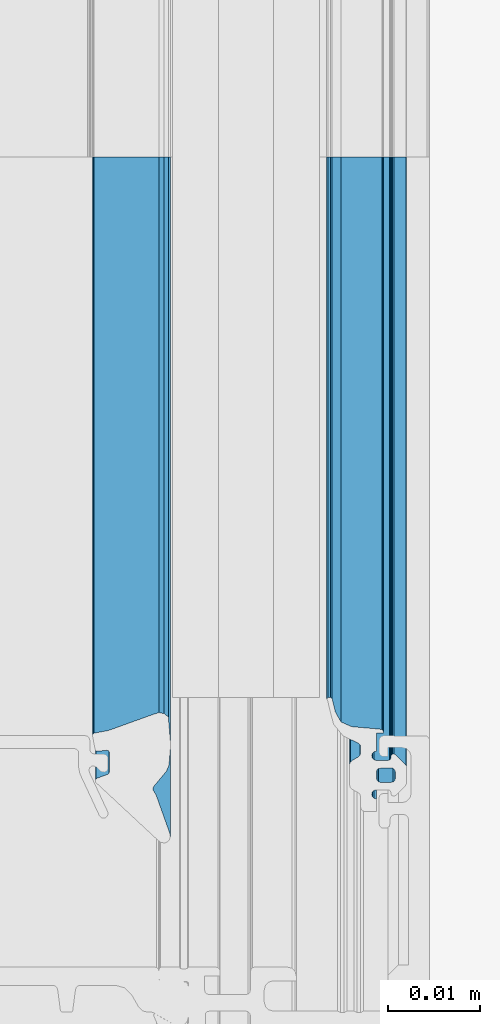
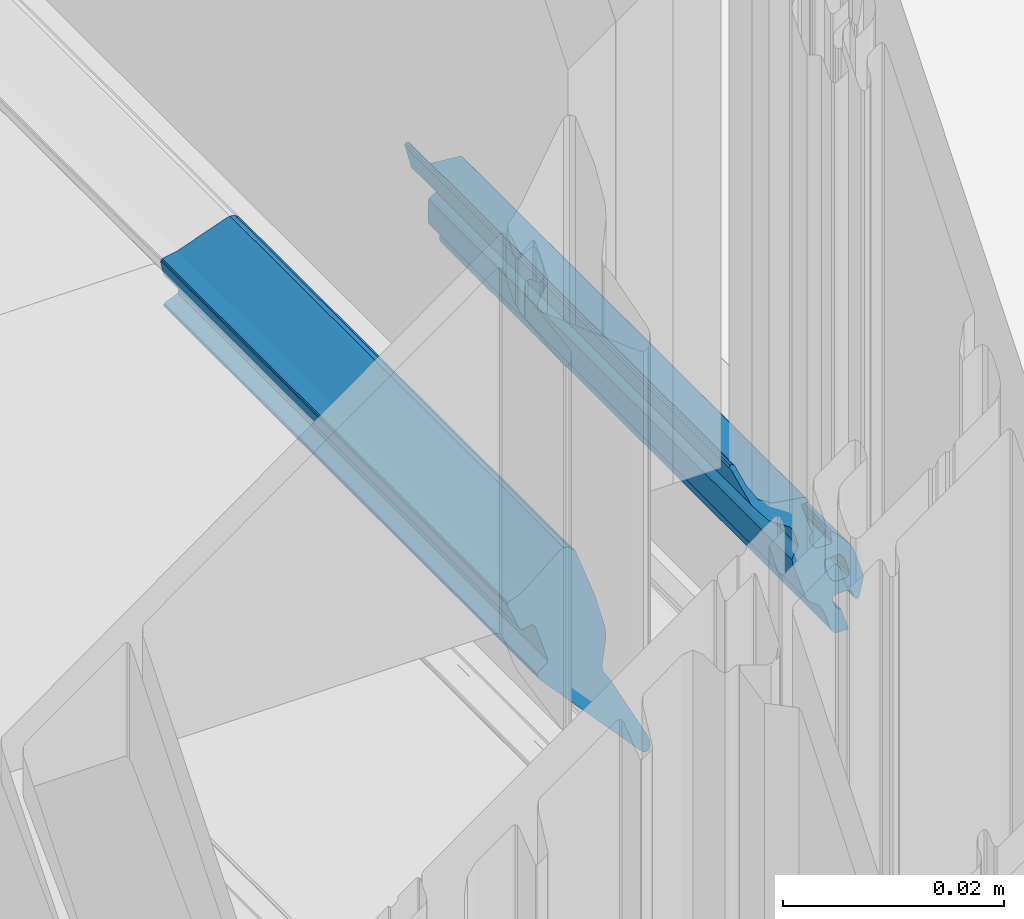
# One storey, part 53 of 65: 1 building element part, 2 elements without a shape of their own.
"""IFC2X3 building model written with IfcOpenShell, lengths in millimetres."""

from ifc_helpers import new_model, entity, si_unit, converted_unit, derived_unit, money_unit, direction, frame, origin_with_axes, place, context, subcontext, project, spatial, faceted_brep, material, type_object, element, aggregate, save


model = new_model("IFC2X3")

# Units and contexts
model_context = context("Model", 3, precision=0.01, world=origin_with_axes(), true_north=direction((0.0, 1.0)))
body_context = subcontext(model_context, "Body", "Model", "MODEL_VIEW")
ifc_project = project(units=[si_unit("LENGTHUNIT", "METRE", prefix="MILLI"), si_unit("AREAUNIT", "SQUARE_METRE"), si_unit("VOLUMEUNIT", "CUBIC_METRE"), converted_unit("PLANEANGLEUNIT", "DEGREE", entity("IfcPlaneAngleMeasure", 0.0174532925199), si_unit("PLANEANGLEUNIT", "RADIAN"), dimensions=[0, 0, 0, 0, 0, 0, 0]), si_unit("SOLIDANGLEUNIT", "STERADIAN"), money_unit("EUR"), converted_unit("TIMEUNIT", "Year", entity("IfcTimeMeasure", 31556926.0), si_unit("TIMEUNIT", "SECOND"), dimensions=[0, 0, 1, 0, 0, 0, 0]), si_unit("MASSUNIT", "GRAM", prefix="KILO"), si_unit("THERMODYNAMICTEMPERATUREUNIT", "DEGREE_CELSIUS"), si_unit("LUMINOUSINTENSITYUNIT", "LUMEN"), si_unit("ENERGYUNIT", "JOULE", prefix="MEGA"), derived_unit("THERMALCONDUCTANCEUNIT", [(si_unit("POWERUNIT", "WATT"), 1), (si_unit("LENGTHUNIT", "METRE"), -1), (si_unit("THERMODYNAMICTEMPERATUREUNIT", "KELVIN"), -1)]), derived_unit("SPECIFICHEATCAPACITYUNIT", [(si_unit("ENERGYUNIT", "JOULE"), 1), (si_unit("MASSUNIT", "GRAM", prefix="KILO"), -1), (si_unit("THERMODYNAMICTEMPERATUREUNIT", "KELVIN"), -1)]), derived_unit("MASSDENSITYUNIT", [(si_unit("MASSUNIT", "GRAM", prefix="KILO"), 1), (si_unit("VOLUMEUNIT", "CUBIC_METRE"), -1)])], contexts=[model_context])

# Site, building, storey
site_placement = place(None, origin_with_axes())
site = spatial("IfcSite", under=ifc_project, at=site_placement, Name="Puškini 31, Narva", CompositionType="ELEMENT")
building_placement = place(site_placement, origin_with_axes())
building = spatial("IfcBuilding", under=site, at=building_placement, Name="Narva Riigigümnaasium", CompositionType="ELEMENT")
storey_placement = place(building_placement, frame((0.0, 0.0, -1320.0), z_axis=(0.0, 0.0, 1.0), x_axis=(1.0, 0.0, 0.0)))
storey = spatial("IfcBuildingStorey", under=building, at=storey_placement, Name="1.korrus -1.32", CompositionType="ELEMENT", Elevation=-1320.0)

# Curtain wall, member, building element part
curtain_wall_type = type_object("IfcCurtainWallType", Name="Curtain Wall Type", PredefinedType="NOTDEFINED")
curtain_wall_placement = place(storey_placement, frame((28354.9542923, 194209.397521, 0.0), z_axis=(0.0, 0.0, 1.0), x_axis=(1.0, 0.0, 0.0)))
curtain_wall = element("IfcCurtainWall", 1, at=curtain_wall_placement, inside=storey, type_object=curtain_wall_type, Name="G-SKLF-07")
member_type = type_object("IfcMemberType", Name="61 x 45", PredefinedType="MULLION")
member_placement = place(curtain_wall_placement, frame((-0.00822307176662, -2029.39735013, 0.0), z_axis=(4.05197717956e-06, 0.999999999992, 0.0), x_axis=(0.0, 0.0, 1.0)))
member = element("IfcMember", 2, at=member_placement, type_object=member_type, Name="G-SKLF-18", ObjectType="MULLION")
aggregate(curtain_wall, [member])
ifc_material = material(Name="Membraan - Veekindel")
building_element_part_placement = place(member_placement, origin_with_axes())
building_element_part = element("IfcBuildingElementPart", 3, at=building_element_part_placement, material=ifc_material, Name="Membraan - Veekindel", context=body_context, shape_type="Brep", body=[
    faceted_brep([(59.5800222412, 34.73794757, 59.5800222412), (59.5800222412, 34.73794757, 119.995697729), (61.0413385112, 34.3890442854, 119.995697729), (61.0413385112, 34.3890442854, 61.0413385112), (58.4755028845, 35.3628499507, 58.4755028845), (58.4755028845, 35.3628499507, 119.995697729), (57.9693613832, 36.5265882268, 119.995697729), (57.7000324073, 39.5999584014, 119.995697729), (57.6464370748, 39.799971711, 119.995697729), (57.5000161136, 39.946391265, 119.995697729), (57.3000022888, 39.9999846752, 119.995697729), (57.3000022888, 39.1999494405, 119.995697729), (55.3000210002, 39.1999606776, 119.995697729), (55.2330337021, 38.9499606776, 119.995697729), (55.0500210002, 38.7669479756, 119.995697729), (54.8000210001, 38.6999606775, 119.995697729), (54.5500210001, 38.7669479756, 119.995697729), (54.3670082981, 38.9499606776, 119.995697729), (54.300021, 39.1999606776, 119.995697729), (54.300021, 40.4999366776, 119.995697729), (54.3402133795, 40.6499366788, 119.995697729), (54.4500210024, 40.7597443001, 119.995697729), (54.6000210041, 40.7999366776, 119.995697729), (54.7000173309, 40.7999366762, 119.995697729), (54.866675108, 40.850483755, 119.995697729), (54.9771753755, 40.9850924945, 119.995697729), (54.9942836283, 41.1584047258, 119.995697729), (54.9122350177, 41.3120206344, 119.995697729), (53.8716106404, 42.3533776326, 119.995697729), (53.7093558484, 42.4618547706, 119.995697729), (53.517932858, 42.4999486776, 119.995697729), (51.8818844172, 42.4999486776, 119.995697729), (51.6904310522, 42.4618421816, 119.995697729), (51.5281601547, 42.3533311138, 119.995697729), (50.4878083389, 41.3119729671, 119.995697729), (50.4057850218, 41.1583618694, 119.995697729), (50.4229059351, 40.9850671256, 119.995697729), (50.5334025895, 40.8504763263, 119.995697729), (50.7000457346, 40.7999366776, 119.995697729), (50.80004, 40.7999366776, 119.995697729), (50.95004, 40.7597442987, 119.995697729), (51.0598476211, 40.6499366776, 119.995697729), (51.10004, 40.4999366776, 119.995697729), (51.10004, 39.1999550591, 119.995697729), (51.0330541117, 38.9499546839, 119.995697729), (50.8500424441, 38.7669409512, 119.995697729), (50.6000428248, 38.699952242, 119.995697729), (50.3500424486, 38.7669381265, 119.995697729), (50.1670287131, 38.9499497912, 119.995697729), (50.10004, 39.1999494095, 119.995697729), (48.7206527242, 39.1999494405, 119.995697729), (48.7206527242, 38.0023809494, 119.995697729), (48.7876400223, 37.7523809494, 119.995697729), (48.9706527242, 37.5693682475, 119.995697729), (49.2206527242, 37.5023809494, 119.995697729), (50.3319753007, 37.5023809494, 119.995697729), (50.5819753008, 37.4353936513, 119.995697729), (50.7649880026, 37.2523809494, 119.995697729), (51.1691331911, 36.5523809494, 119.995697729), (51.352145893, 36.3693682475, 119.995697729), (51.602145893, 36.3023809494, 119.995697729), (53.8391557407, 36.3023809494, 119.995697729), (54.0891557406, 36.3693682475, 119.995697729), (54.2721684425, 36.5523809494, 119.995697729), (54.676313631, 37.2523809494, 119.995697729), (54.8593263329, 37.4353936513, 119.995697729), (55.1093263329, 37.5023809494, 119.995697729), (55.7607444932, 37.5023809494, 119.995697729), (55.9795989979, 37.4519392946, 119.995697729), (56.1542959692, 37.3107917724, 119.995697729), (56.2495873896, 37.1074172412, 119.995697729), (56.9567944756, 35.6067920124, 119.995697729), (58.2346494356, 34.5489145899, 119.995697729), (59.8409257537, 34.1343131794, 119.995697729), (60.7381535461, 33.9217644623, 119.995697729), (61.0108941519, 33.784859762, 119.995697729), (61.1423164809, 33.9681748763, 119.995697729), (61.1536677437, 34.1934467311, 119.995697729), (53.5000340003, 40.7999553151, 119.995697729), (53.433048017, 39.44993177, 119.995697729), (53.2500389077, 39.2669226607, 119.995697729), (53.0000438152, 39.1999366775, 119.995697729), (52.4000171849, 39.1999366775, 119.995697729), (52.1500220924, 39.2669226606, 119.995697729), (51.9670129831, 39.4499317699, 119.995697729), (51.9000269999, 39.6999268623, 119.995697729), (51.9000269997, 40.799955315, 119.995697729), (51.9670118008, 41.0499459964, 119.995697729), (52.150017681, 41.2329518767, 119.995697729), (52.4000083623, 41.299936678, 119.995697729), (53.0000526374, 41.299936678, 119.995697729), (53.2500433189, 41.2329518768, 119.995697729), (53.4330491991, 41.0499459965, 119.995697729), (61.1536677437, 34.1934467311, 61.1536677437), (61.1423164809, 33.9681748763, 61.1423164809), (61.0108941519, 33.784859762, 61.0108941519), (60.7381535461, 33.9217644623, 60.7381535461), (59.8409257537, 34.1343131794, 59.8409257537), (58.2346494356, 34.5489145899, 58.2346494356), (56.9567944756, 35.6067920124, 56.9567944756), (56.2495873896, 37.1074172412, 56.2495873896), (56.1542959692, 37.3107917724, 56.1542959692), (55.9795989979, 37.4519392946, 55.9795989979), (55.7607444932, 37.5023809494, 55.7607444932), (55.1093263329, 37.5023809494, 55.1093263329), (54.8593263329, 37.4353936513, 54.8593263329), (54.676313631, 37.2523809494, 54.676313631), (54.2721684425, 36.5523809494, 54.2721684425), (54.0891557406, 36.3693682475, 54.0891557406), (53.8391557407, 36.3023809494, 53.8391557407), (51.602145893, 36.3023809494, 51.602145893), (51.352145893, 36.3693682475, 51.352145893), (51.1691331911, 36.5523809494, 51.1691331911), (50.7649880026, 37.2523809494, 50.7649880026), (50.5819753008, 37.4353936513, 50.5819753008), (50.3319753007, 37.5023809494, 50.3319753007), (49.2206527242, 37.5023809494, 49.2206527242), (48.9706527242, 37.5693682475, 48.9706527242), (48.7876400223, 37.7523809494, 48.7876400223), (48.7206527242, 38.0023809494, 48.7206527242), (48.7206527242, 39.1999494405, 48.7206527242), (50.10004, 39.1999494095, 50.10004), (50.1670287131, 38.9499497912, 50.1670287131), (50.3500424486, 38.7669381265, 50.3500424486), (50.6000428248, 38.699952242, 50.6000428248), (50.8500424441, 38.7669409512, 50.8500424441), (51.0330541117, 38.9499546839, 51.0330541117), (51.10004, 39.1999550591, 51.10004), (51.10004, 40.4999366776, 51.10004), (51.0598476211, 40.6499366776, 51.0598476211), (50.95004, 40.7597442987, 50.95004), (50.80004, 40.7999366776, 50.80004), (50.7000457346, 40.7999366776, 50.7000457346), (50.5334025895, 40.8504763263, 50.5334025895), (50.4229059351, 40.9850671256, 50.4229059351), (50.4057850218, 41.1583618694, 50.4057850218), (50.4878083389, 41.3119729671, 50.4878083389), (51.5281601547, 42.3533311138, 51.5281601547), (51.6904310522, 42.4618421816, 51.6904310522), (51.8818844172, 42.4999486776, 51.8818844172), (53.517932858, 42.4999486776, 53.517932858), (53.7093558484, 42.4618547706, 53.7093558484), (53.8716106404, 42.3533776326, 53.8716106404), (54.9122350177, 41.3120206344, 54.9122350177), (54.9942836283, 41.1584047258, 54.9942836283), (54.9771753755, 40.9850924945, 54.9771753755), (54.866675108, 40.850483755, 54.866675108), (54.7000173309, 40.7999366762, 54.7000173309), (54.6000210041, 40.7999366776, 54.6000210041), (54.4500210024, 40.7597443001, 54.4500210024), (54.3402133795, 40.6499366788, 54.3402133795), (54.300021, 40.4999366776, 54.300021), (54.300021, 39.1999606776, 54.300021), (54.3670082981, 38.9499606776, 54.3670082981), (54.5500210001, 38.7669479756, 54.5500210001), (54.8000210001, 38.6999606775, 54.8000210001), (55.0500210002, 38.7669479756, 55.0500210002), (55.2330337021, 38.9499606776, 55.2330337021), (55.3000210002, 39.1999606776, 55.3000210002), (57.3000022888, 39.1999494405, 57.3000022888), (57.3000022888, 39.9999846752, 57.3000022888), (57.5000161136, 39.946391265, 57.5000161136), (57.6464370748, 39.799971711, 57.6464370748), (57.7000324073, 39.5999584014, 57.7000324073), (57.9693613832, 36.5265882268, 57.9693613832), (53.5000340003, 40.7999553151, 53.5000340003), (53.4330491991, 41.0499459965, 53.4330491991), (53.2500433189, 41.2329518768, 53.2500433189), (53.0000526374, 41.299936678, 53.0000526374), (52.4000083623, 41.299936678, 52.4000083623), (52.150017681, 41.2329518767, 52.150017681), (51.9670118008, 41.0499459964, 51.9670118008), (51.9000269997, 40.799955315, 51.9000269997), (51.9000269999, 39.6999268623, 51.9000269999), (51.9670129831, 39.4499317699, 51.9670129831), (52.1500220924, 39.2669226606, 52.1500220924), (52.4000171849, 39.1999366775, 52.4000171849), (53.0000438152, 39.1999366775, 53.0000438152), (53.2500389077, 39.2669226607, 53.2500389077), (53.433048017, 39.44993177, 53.433048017)], [[[0, 1, 2, 3]], [[4, 5, 1, 0]], [[2, 1, 5, 6, 7, 8, 9, 10, 11, 12, 13, 14, 15, 16, 17, 18, 19, 20, 21, 22, 23, 24, 25, 26, 27, 28, 29, 30, 31, 32, 33, 34, 35, 36, 37, 38, 39, 40, 41, 42, 43, 44, 45, 46, 47, 48, 49, 50, 51, 52, 53, 54, 55, 56, 57, 58, 59, 60, 61, 62, 63, 64, 65, 66, 67, 68, 69, 70, 71, 72, 73, 74, 75, 76, 77], [78, 79, 80, 81, 82, 83, 84, 85, 86, 87, 88, 89, 90, 91, 92]], [[3, 2, 77, 93]], [[3, 93, 94, 95, 96, 97, 98, 99, 100, 101, 102, 103, 104, 105, 106, 107, 108, 109, 110, 111, 112, 113, 114, 115, 116, 117, 118, 119, 120, 121, 122, 123, 124, 125, 126, 127, 128, 129, 130, 131, 132, 133, 134, 135, 136, 137, 138, 139, 140, 141, 142, 143, 144, 145, 146, 147, 148, 149, 150, 151, 152, 153, 154, 155, 156, 157, 158, 159, 160, 161, 162, 163, 164, 4, 0], [165, 166, 167, 168, 169, 170, 171, 172, 173, 174, 175, 176, 177, 178, 179]], [[164, 6, 5, 4]], [[163, 7, 6, 164]], [[162, 8, 7, 163]], [[161, 9, 8, 162]], [[160, 10, 9, 161]], [[159, 11, 10, 160]], [[158, 12, 11, 159]], [[157, 13, 12, 158]], [[156, 14, 13, 157]], [[155, 15, 14, 156]], [[154, 16, 15, 155]], [[153, 17, 16, 154]], [[152, 18, 17, 153]], [[151, 19, 18, 152]], [[150, 20, 19, 151]], [[149, 21, 20, 150]], [[148, 22, 21, 149]], [[147, 23, 22, 148]], [[146, 24, 23, 147]], [[145, 25, 24, 146]], [[144, 26, 25, 145]], [[143, 27, 26, 144]], [[142, 28, 27, 143]], [[141, 29, 28, 142]], [[140, 30, 29, 141]], [[139, 31, 30, 140]], [[138, 32, 31, 139]], [[137, 33, 32, 138]], [[136, 34, 33, 137]], [[135, 35, 34, 136]], [[134, 36, 35, 135]], [[133, 37, 36, 134]], [[132, 38, 37, 133]], [[131, 39, 38, 132]], [[130, 40, 39, 131]], [[129, 41, 40, 130]], [[128, 42, 41, 129]], [[127, 43, 42, 128]], [[126, 44, 43, 127]], [[125, 45, 44, 126]], [[124, 46, 45, 125]], [[123, 47, 46, 124]], [[122, 48, 47, 123]], [[121, 49, 48, 122]], [[120, 50, 49, 121]], [[119, 51, 50, 120]], [[118, 52, 51, 119]], [[117, 53, 52, 118]], [[116, 54, 53, 117]], [[115, 55, 54, 116]], [[114, 56, 55, 115]], [[113, 57, 56, 114]], [[112, 58, 57, 113]], [[111, 59, 58, 112]], [[110, 60, 59, 111]], [[109, 61, 60, 110]], [[108, 62, 61, 109]], [[107, 63, 62, 108]], [[106, 64, 63, 107]], [[105, 65, 64, 106]], [[104, 66, 65, 105]], [[103, 67, 66, 104]], [[102, 68, 67, 103]], [[101, 69, 68, 102]], [[100, 70, 69, 101]], [[99, 71, 70, 100]], [[98, 72, 71, 99]], [[97, 73, 72, 98]], [[96, 74, 73, 97]], [[95, 75, 74, 96]], [[94, 76, 75, 95]], [[93, 77, 76, 94]], [[179, 79, 78, 165]], [[178, 80, 79, 179]], [[177, 81, 80, 178]], [[176, 82, 81, 177]], [[175, 83, 82, 176]], [[174, 84, 83, 175]], [[173, 85, 84, 174]], [[172, 86, 85, 173]], [[171, 87, 86, 172]], [[170, 88, 87, 171]], [[169, 89, 88, 170]], [[168, 90, 89, 169]], [[167, 91, 90, 168]], [[166, 92, 91, 167]], [[165, 78, 92, 166]]]),
    faceted_brep([(55.9926715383, 16.8063498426, 55.9926715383), (55.9926715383, 16.8063498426, 119.995697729), (59.0307115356, 16.554149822, 119.995697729), (59.0307115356, 16.554149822, 59.0307115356), (53.7899070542, 16.6230039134, 53.7899070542), (53.7899070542, 16.6230039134, 119.995697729), (53.1225200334, 16.3483062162, 119.995697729), (51.5205025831, 15.0099586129, 119.995697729), (51.3011765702, 14.8998814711, 119.995697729), (51.0558924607, 14.9074036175, 119.995697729), (50.8437237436, 15.0307134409, 119.995697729), (50.5536994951, 15.2121179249, 119.995697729), (46.298307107, 16.7340705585, 119.995697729), (45.950966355, 16.7718696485, 119.995697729), (45.6241929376, 16.6482027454, 119.995697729), (45.3889077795, 16.3899097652, 119.995697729), (45.3195226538, 16.2152275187, 119.995697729), (45.3418968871, 15.7688623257, 119.995697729), (45.6142070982, 15.4144760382, 119.995697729), (51.8169217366, 8.74599822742, 119.995697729), (51.938943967, 8.6326446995, 119.995697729), (52.1026310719, 8.60190419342, 119.995697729), (52.2574645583, 8.66326410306, 119.995697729), (52.3556584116, 8.79778701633, 119.995697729), (52.7761212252, 9.95299910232, 119.995697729), (52.8859560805, 10.0961386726, 119.995697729), (53.0580290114, 10.1503930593, 119.995697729), (55.1123574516, 10.1503930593, 119.995697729), (55.2731258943, 10.1036784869, 119.995697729), (55.3838261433, 9.9780831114, 119.995697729), (55.4099827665, 9.81272116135, 119.995697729), (55.2940485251, 8.85237785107, 119.995697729), (55.3307332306, 8.72753828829, 119.995697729), (55.4168250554, 8.62997353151, 119.995697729), (55.5361285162, 8.57803733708, 119.995697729), (56.9361285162, 8.30590490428, 119.995697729), (57.0661058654, 8.3093438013, 119.995697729), (57.1824204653, 8.36745448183, 119.995697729), (57.2632233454, 8.46932121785, 119.995697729), (57.5418652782, 10.0035930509, 119.995697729), (59.3405112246, 15.0012955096, 119.995697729), (59.5001582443, 15.5494067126, 119.995697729), (59.3884652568, 16.1092618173, 119.995697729), (59.3884652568, 16.1092618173, 59.3884652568), (59.5001582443, 15.5494067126, 59.5001582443), (59.3405112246, 15.0012955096, 59.3405112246), (57.5418652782, 10.0035930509, 57.5418652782), (57.2632233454, 8.46932121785, 57.2632233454), (57.1824204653, 8.36745448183, 57.1824204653), (57.0661058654, 8.3093438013, 57.0661058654), (56.9361285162, 8.30590490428, 56.9361285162), (55.5361285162, 8.57803733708, 55.5361285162), (55.4168250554, 8.62997353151, 55.4168250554), (55.3307332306, 8.72753828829, 55.3307332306), (55.2940485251, 8.85237785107, 55.2940485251), (55.4099827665, 9.81272116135, 55.4099827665), (55.3838261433, 9.9780831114, 55.3838261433), (55.2731258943, 10.1036784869, 55.2731258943), (55.1123574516, 10.1503930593, 55.1123574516), (53.0580290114, 10.1503930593, 53.0580290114), (52.8859560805, 10.0961386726, 52.8859560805), (52.7761212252, 9.95299910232, 52.7761212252), (52.3556584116, 8.79778701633, 52.3556584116), (52.2574645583, 8.66326410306, 52.2574645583), (52.1026310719, 8.60190419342, 52.1026310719), (51.938943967, 8.6326446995, 51.938943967), (51.8169217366, 8.74599822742, 51.8169217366), (45.6142070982, 15.4144760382, 45.6142070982), (45.3418968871, 15.7688623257, 45.3418968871), (45.3195226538, 16.2152275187, 45.3195226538), (45.3889077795, 16.3899097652, 45.3889077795), (45.6241929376, 16.6482027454, 45.6241929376), (45.950966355, 16.7718696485, 45.950966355), (46.298307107, 16.7340705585, 46.298307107), (50.5536994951, 15.2121179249, 50.5536994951), (50.8437237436, 15.0307134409, 50.8437237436), (51.0558924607, 14.9074036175, 51.0558924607), (51.3011765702, 14.8998814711, 51.3011765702), (51.5205025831, 15.0099586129, 51.5205025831), (53.1225200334, 16.3483062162, 53.1225200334)], [[[0, 1, 2, 3]], [[4, 5, 1, 0]], [[2, 1, 5, 6, 7, 8, 9, 10, 11, 12, 13, 14, 15, 16, 17, 18, 19, 20, 21, 22, 23, 24, 25, 26, 27, 28, 29, 30, 31, 32, 33, 34, 35, 36, 37, 38, 39, 40, 41, 42]], [[3, 2, 42, 43]], [[3, 43, 44, 45, 46, 47, 48, 49, 50, 51, 52, 53, 54, 55, 56, 57, 58, 59, 60, 61, 62, 63, 64, 65, 66, 67, 68, 69, 70, 71, 72, 73, 74, 75, 76, 77, 78, 79, 4, 0]], [[79, 6, 5, 4]], [[78, 7, 6, 79]], [[77, 8, 7, 78]], [[76, 9, 8, 77]], [[75, 10, 9, 76]], [[74, 11, 10, 75]], [[73, 12, 11, 74]], [[72, 13, 12, 73]], [[71, 14, 13, 72]], [[70, 15, 14, 71]], [[69, 16, 15, 70]], [[68, 17, 16, 69]], [[67, 18, 17, 68]], [[66, 19, 18, 67]], [[65, 20, 19, 66]], [[64, 21, 20, 65]], [[63, 22, 21, 64]], [[62, 23, 22, 63]], [[61, 24, 23, 62]], [[60, 25, 24, 61]], [[59, 26, 25, 60]], [[58, 27, 26, 59]], [[57, 28, 27, 58]], [[56, 29, 28, 57]], [[55, 30, 29, 56]], [[54, 31, 30, 55]], [[53, 32, 31, 54]], [[52, 33, 32, 53]], [[51, 34, 33, 52]], [[50, 35, 34, 51]], [[49, 36, 35, 50]], [[48, 37, 36, 49]], [[47, 38, 37, 48]], [[46, 39, 38, 47]], [[45, 40, 39, 46]], [[44, 41, 40, 45]], [[43, 42, 41, 44]]]),
])
aggregate(member, [building_element_part])

save(model, "model.ifc")
